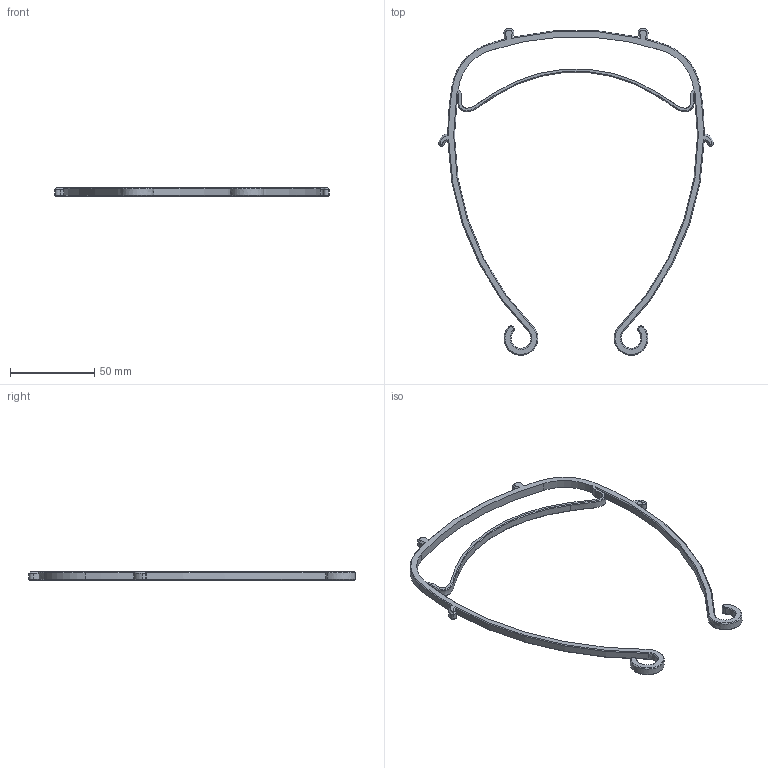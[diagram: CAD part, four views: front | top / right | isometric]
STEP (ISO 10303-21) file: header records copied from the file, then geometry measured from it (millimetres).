
FILE_DESCRIPTION((''),'2;1');
FILE_NAME('VERKSTAN_A4_EO','2020-04-07T20:28:34',('Jason'),(''),'CREO PARAMETRIC BY PTC INC, 2019224','CREO PARAMETRIC BY PTC INC, 2019224','');
FILE_SCHEMA(('CONFIG_CONTROL_DESIGN'));
Length unit declared in the file: millimetre
Products named in the file (1): VERKSTAN_A4_EO
Bounding box: 163.03 x 193.79 x 5 mm (x, y, z)
Volume: 13110.8 mm3; surface area: 12179.3 mm2
Topology: 1 solids, 1 shells, 144 faces, 346 edges, 204 vertices
Faces by surface type: cone 56, cylinder 36, plane 32, bspline 12, extrusion 8
Entity records: 6512 total; most frequent: CARTESIAN_POINT 3222, ORIENTED_EDGE 692, DIRECTION 658, EDGE_CURVE 346, AXIS2_PLACEMENT_3D 248, VERTEX_POINT 204, VECTOR 162, LINE 154
